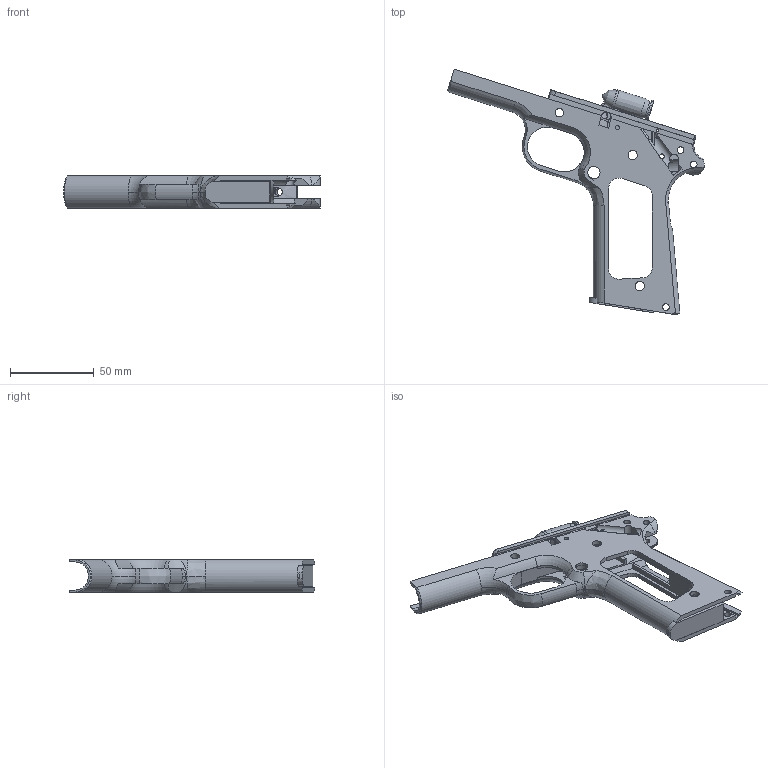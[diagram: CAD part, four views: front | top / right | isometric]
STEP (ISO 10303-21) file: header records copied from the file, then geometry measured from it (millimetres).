
FILE_DESCRIPTION((''),'2;1');
FILE_NAME('H:\PROJECTS\PERS.PROJECTS\Gray Area\1911\Magazine\1911 GM Magazine Assy.stp','2011-11-23T20:47:36',('Bob'),(''),'Autodesk Inventor 2011','Autodesk Inventor 2011','');
FILE_SCHEMA(('AUTOMOTIVE_DESIGN { 1 0 10303 214 1 1 1 1 }'));
Length unit declared in the file: inch
Products named in the file (6): 1911 GM Magazine Assy; Magazine Body; Magazine Follower; Magazine Base Plate; 1911 Receiver; 45 ACP Cartridge
Assembly tree (5 placements, depth 2):
  1911 GM Magazine Assy
    Magazine Body
    Magazine Follower
    Magazine Base Plate
    1911 Receiver
    45 ACP Cartridge
Bounding box: 152.85 x 146.2 x 19.1 mm (x, y, z)
Volume: 45469.1 mm3; surface area: 39444.5 mm2
Topology: 5 solids, 5 shells, 305 faces, 925 edges, 614 vertices
Faces by surface type: plane 141, cylinder 113, cone 22, torus 16, bspline 13
Full cylindrical faces by diameter (mm): 1.575 x1, 1.588 x4, 2.451 x1, 2.51 x1, 2.794 x2, 3.175 x1, 3.957 x2, 3.988 x2, 4.001 x2, 4.166 x1, 4.724 x1, 4.775 x2, 5.105 x2, 5.537 x4, 5.556 x1, 7.315 x1, 7.938 x1, 10.16 x1, 12.019 x1, 12.726 x1
Entity records: 11265 total; most frequent: CARTESIAN_POINT 2793, DIRECTION 1723, ORIENTED_EDGE 1714, EDGE_CURVE 857, AXIS2_PLACEMENT_3D 648, VERTEX_POINT 604, VECTOR 427, LINE 427
